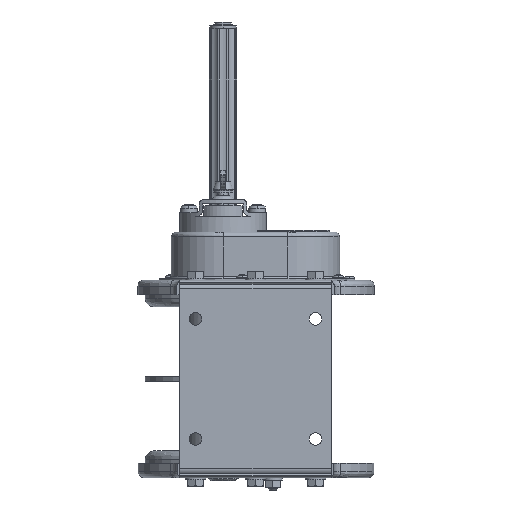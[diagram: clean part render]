
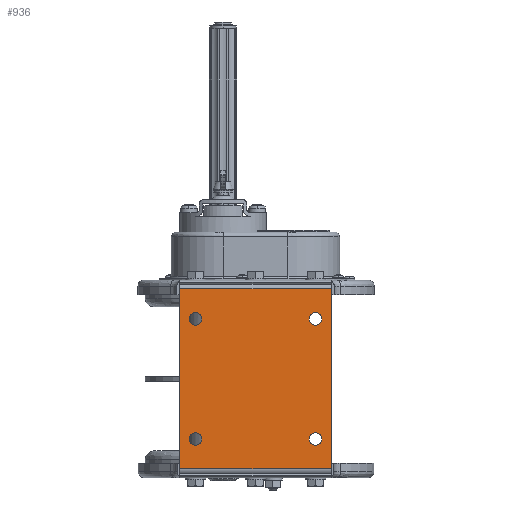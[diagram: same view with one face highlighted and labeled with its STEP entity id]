
A CAD part, front view. The second image highlights one B-rep face of the part: STEP entity #936.
In plain terms, the highlighted planar face has unit normal (0, -1, 0).
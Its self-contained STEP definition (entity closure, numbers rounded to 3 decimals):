
#936=ADVANCED_FACE('',(#10547,#10548,#10549,#10550,#10551),#10546,.F.);
#10546=PLANE('',#34798);
#10547=FACE_OUTER_BOUND('',#34799,.T.);
#10548=FACE_BOUND('',#34800,.T.);
#10549=FACE_BOUND('',#34801,.T.);
#10550=FACE_BOUND('',#34802,.T.);
#10551=FACE_BOUND('',#34803,.T.);
#34795=CARTESIAN_POINT('',(-184.621,-15.835,-160.482));
#34796=DIRECTION('',(0.,1.,0.));
#34797=DIRECTION('',(0.,0.,1.));
#34798=AXIS2_PLACEMENT_3D('',#34795,#34796,#34797);
#34799=EDGE_LOOP('',(#50222,#50223,#50224,#50225));
#34800=EDGE_LOOP('',(#50226,#50227));
#34801=EDGE_LOOP('',(#50228,#50229));
#34802=EDGE_LOOP('',(#50230,#50231));
#34803=EDGE_LOOP('',(#50232,#50233));
#50222=ORIENTED_EDGE('',*,*,#61404,.F.);
#50223=ORIENTED_EDGE('',*,*,#61461,.F.);
#50224=ORIENTED_EDGE('',*,*,#61460,.T.);
#50225=ORIENTED_EDGE('',*,*,#61462,.T.);
#50226=ORIENTED_EDGE('',*,*,#61463,.T.);
#50227=ORIENTED_EDGE('',*,*,#61464,.T.);
#50228=ORIENTED_EDGE('',*,*,#61465,.T.);
#50229=ORIENTED_EDGE('',*,*,#61466,.T.);
#50230=ORIENTED_EDGE('',*,*,#61467,.T.);
#50231=ORIENTED_EDGE('',*,*,#61468,.T.);
#50232=ORIENTED_EDGE('',*,*,#61469,.T.);
#50233=ORIENTED_EDGE('',*,*,#61470,.T.);
#61404=EDGE_CURVE('',#81976,#81983,#81984,.T.);
#61460=EDGE_CURVE('',#82350,#82357,#82364,.T.);
#61461=EDGE_CURVE('',#82350,#81976,#82370,.T.);
#61462=EDGE_CURVE('',#82357,#81983,#82376,.T.);
#61463=EDGE_CURVE('',#82382,#82383,#82384,.T.);
#61464=EDGE_CURVE('',#82383,#82382,#82390,.T.);
#61465=EDGE_CURVE('',#82396,#82397,#82398,.T.);
#61466=EDGE_CURVE('',#82397,#82396,#82404,.T.);
#61467=EDGE_CURVE('',#82410,#82411,#82412,.T.);
#61468=EDGE_CURVE('',#82411,#82410,#82418,.T.);
#61469=EDGE_CURVE('',#82424,#82425,#82426,.T.);
#61470=EDGE_CURVE('',#82425,#82424,#82432,.T.);
#81976=VERTEX_POINT('',#118616);
#81983=VERTEX_POINT('',#118621);
#81984=LINE('',#118622,#118623);
#82350=VERTEX_POINT('',#118853);
#82357=VERTEX_POINT('',#118858);
#82364=LINE('',#118863,#118864);
#82370=LINE('',#118866,#118867);
#82376=LINE('',#118869,#118870);
#82382=VERTEX_POINT('',#118872);
#82383=VERTEX_POINT('',#118873);
#82384=CIRCLE('',#118877,5.25);
#82390=CIRCLE('',#118881,5.25);
#82396=VERTEX_POINT('',#118882);
#82397=VERTEX_POINT('',#118883);
#82398=CIRCLE('',#118887,5.25);
#82404=CIRCLE('',#118891,5.25);
#82410=VERTEX_POINT('',#118892);
#82411=VERTEX_POINT('',#118893);
#82412=CIRCLE('',#118897,5.25);
#82418=CIRCLE('',#118901,5.25);
#82424=VERTEX_POINT('',#118902);
#82425=VERTEX_POINT('',#118903);
#82426=CIRCLE('',#118907,5.25);
#82432=CIRCLE('',#118911,5.25);
#118616=CARTESIAN_POINT('',(-48.621,-15.835,-150.482));
#118621=CARTESIAN_POINT('',(-174.621,-15.835,-150.482));
#118622=CARTESIAN_POINT('',(-48.621,-15.835,-150.482));
#118623=VECTOR('',#118624,126.);
#118624=DIRECTION('',(-1.,0.,0.));
#118853=CARTESIAN_POINT('',(-48.621,-15.835,-0.482));
#118858=CARTESIAN_POINT('',(-174.621,-15.835,-0.482));
#118863=CARTESIAN_POINT('',(-48.621,-15.835,-0.482));
#118864=VECTOR('',#118865,126.);
#118865=DIRECTION('',(-1.,0.,0.));
#118866=CARTESIAN_POINT('',(-48.621,-15.835,-0.482));
#118867=VECTOR('',#118868,150.);
#118868=DIRECTION('',(0.,0.,-1.));
#118869=CARTESIAN_POINT('',(-174.621,-15.835,-0.482));
#118870=VECTOR('',#118871,150.);
#118871=DIRECTION('',(0.,0.,-1.));
#118872=CARTESIAN_POINT('',(-161.621,-15.835,-120.232));
#118873=CARTESIAN_POINT('',(-161.621,-15.835,-130.732));
#118874=CARTESIAN_POINT('',(-161.621,-15.835,-125.482));
#118875=DIRECTION('',(0.,1.,0.));
#118876=DIRECTION('',(0.,0.,1.));
#118877=AXIS2_PLACEMENT_3D('',#118874,#118875,#118876);
#118878=CARTESIAN_POINT('',(-161.621,-15.835,-125.482));
#118879=DIRECTION('',(0.,1.,0.));
#118880=DIRECTION('',(0.,0.,1.));
#118881=AXIS2_PLACEMENT_3D('',#118878,#118879,#118880);
#118882=CARTESIAN_POINT('',(-61.621,-15.835,-120.232));
#118883=CARTESIAN_POINT('',(-61.621,-15.835,-130.732));
#118884=CARTESIAN_POINT('',(-61.621,-15.835,-125.482));
#118885=DIRECTION('',(0.,1.,0.));
#118886=DIRECTION('',(0.,0.,1.));
#118887=AXIS2_PLACEMENT_3D('',#118884,#118885,#118886);
#118888=CARTESIAN_POINT('',(-61.621,-15.835,-125.482));
#118889=DIRECTION('',(0.,1.,0.));
#118890=DIRECTION('',(0.,0.,1.));
#118891=AXIS2_PLACEMENT_3D('',#118888,#118889,#118890);
#118892=CARTESIAN_POINT('',(-61.621,-15.835,-20.232));
#118893=CARTESIAN_POINT('',(-61.621,-15.835,-30.732));
#118894=CARTESIAN_POINT('',(-61.621,-15.835,-25.482));
#118895=DIRECTION('',(0.,1.,0.));
#118896=DIRECTION('',(0.,0.,1.));
#118897=AXIS2_PLACEMENT_3D('',#118894,#118895,#118896);
#118898=CARTESIAN_POINT('',(-61.621,-15.835,-25.482));
#118899=DIRECTION('',(0.,1.,0.));
#118900=DIRECTION('',(0.,0.,1.));
#118901=AXIS2_PLACEMENT_3D('',#118898,#118899,#118900);
#118902=CARTESIAN_POINT('',(-161.621,-15.835,-20.232));
#118903=CARTESIAN_POINT('',(-161.621,-15.835,-30.732));
#118904=CARTESIAN_POINT('',(-161.621,-15.835,-25.482));
#118905=DIRECTION('',(0.,1.,0.));
#118906=DIRECTION('',(0.,0.,1.));
#118907=AXIS2_PLACEMENT_3D('',#118904,#118905,#118906);
#118908=CARTESIAN_POINT('',(-161.621,-15.835,-25.482));
#118909=DIRECTION('',(0.,1.,0.));
#118910=DIRECTION('',(0.,0.,1.));
#118911=AXIS2_PLACEMENT_3D('',#118908,#118909,#118910);
